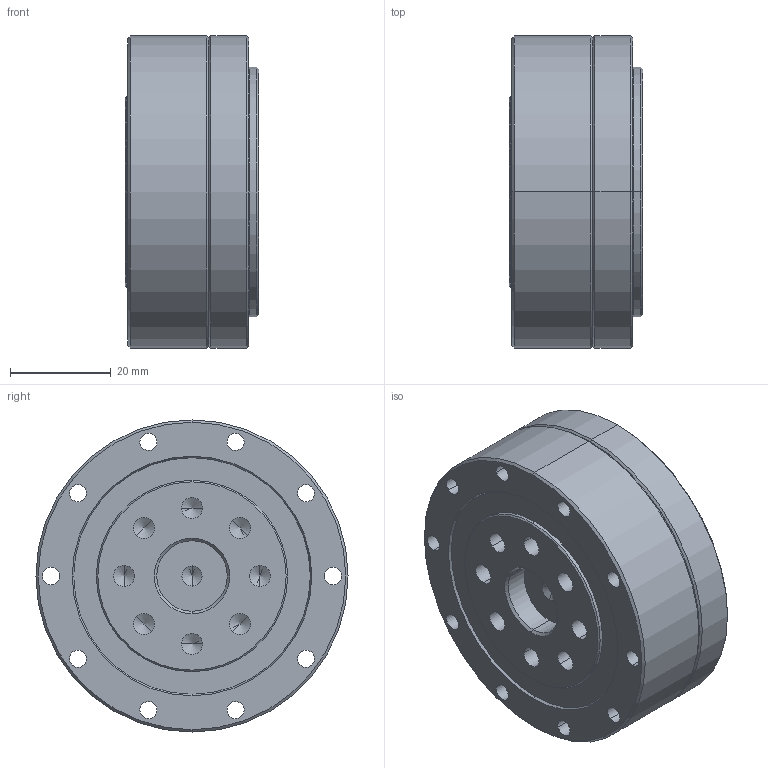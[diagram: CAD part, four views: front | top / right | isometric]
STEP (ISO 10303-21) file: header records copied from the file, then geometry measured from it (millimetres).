
FILE_DESCRIPTION((''),'2;1');
FILE_NAME('LSD-17-XX-U-I-K15_ASM','2019-10-23T',('Administrator'),(''),'PRO/ENGINEER BY PARAMETRIC TECHNOLOGY CORPORATION, 2014200','PRO/ENGINEER BY PARAMETRIC TECHNOLOGY CORPORATION, 2014200','');
FILE_SCHEMA(('AUTOMOTIVE_DESIGN { 1 0 10303 214 1 1 1 1 }'));
Length unit declared in the file: millimetre
Products named in the file (15): MANIFOLD_SOLID_BREP_612; MANIFOLD_SOLID_BREP_6758; RZC-17-ST内外圈__1_ASM; RZC-17-ST悵厥_1; LCD-17-XXX-P01-I-ST_1; LCD-17-XXX-P02-I-ST_1; MANIFOLD_SOLID_BREP_19540; MANIFOLD_SOLID_BREP_22795; LCD-17-XXX-P04-I-ST_1_ASM; SOCKET_HEAD_CAP_SCREW_DIN_囀鞠褒_1; 囀鞠褒埴翐芛蹟_1; PRT0139_1; LCD-17-XXX-C-I-ST_ASM_1_ASM; PRT0137; LSD-17-XX-U-I-K15_ASM
Assembly tree (25 placements, depth 4):
  LSD-17-XX-U-I-K15_ASM
    LCD-17-XXX-C-I-ST_ASM_1_ASM
      RZC-17-ST内外圈__1_ASM
        MANIFOLD_SOLID_BREP_612
        MANIFOLD_SOLID_BREP_6758
      RZC-17-ST悵厥_1
      LCD-17-XXX-P01-I-ST_1
      LCD-17-XXX-P02-I-ST_1
      LCD-17-XXX-P04-I-ST_1_ASM
        MANIFOLD_SOLID_BREP_19540
        MANIFOLD_SOLID_BREP_22795
      SOCKET_HEAD_CAP_SCREW_DIN_囀鞠褒_1  x8
      囀鞠褒埴翐芛蹟_1  x5
      PRT0139_1
    PRT0137
Bounding box: 26.5 x 62 x 62 mm (x, y, z)
Volume: 59442.4 mm3; surface area: 44394.3 mm2
Topology: 22 solids, 26 shells, 918 faces, 2436 edges, 1471 vertices
Faces by surface type: cylinder 330, plane 285, cone 134, torus 123, bspline 46
Entity records: 27354 total; most frequent: CARTESIAN_POINT 6472, DIRECTION 3749, ORIENTED_EDGE 3300, EDGE_CURVE 1658, AXIS2_PLACEMENT_3D 1635, VERTEX_POINT 1108, CIRCLE 995, EDGE_LOOP 760
